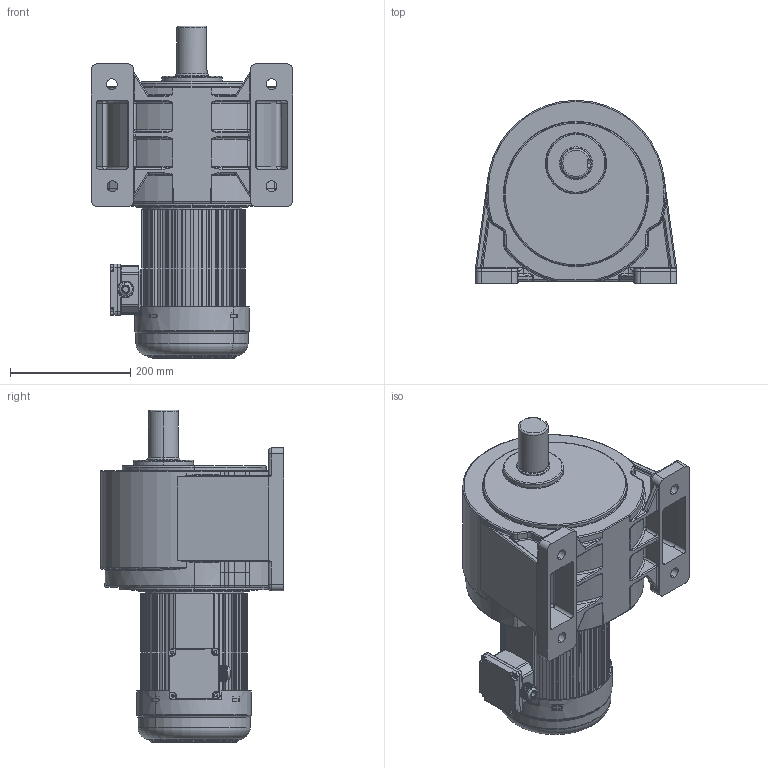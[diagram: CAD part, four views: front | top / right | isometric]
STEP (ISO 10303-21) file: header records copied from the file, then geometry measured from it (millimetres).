
FILE_DESCRIPTION (( 'STEP AP203' ), '1' );
FILE_NAME ('1500W饜6#拏宒.STEP', '2020-04-15T02:37:20', ( 'china' ), ( 'china' ), 'SwSTEP 2.0', 'SolidWorks 2019', '' );
FILE_SCHEMA (( 'CONFIG_CONTROL_DESIGN' ));
Length unit declared in the file: millimetre
Products named in the file (8): 1500W6#拏宒眊极; 1500W儂褲; 1500W饜6#拏宒; 1500W綴傷裔; 瑞欶; 蜊輛綴諉盄碟釱3; 諉芛; 蜊輛綴諉盄碟裔3
Assembly tree (7 placements, depth 2):
  1500W饜6#拏宒
    1500W儂褲
    1500W綴傷裔
    瑞欶
    蜊輛綴諉盄碟釱3
    諉芛
    蜊輛綴諉盄碟裔3
    1500W6#拏宒眊极
Bounding box: 335 x 305 x 552.95 mm (x, y, z)
Volume: 16365289.7 mm3; surface area: 1171120.3 mm2
Topology: 7 solids, 11 shells, 3017 faces, 7982 edges, 5023 vertices
Faces by surface type: plane 1255, cylinder 1021, bspline 306, torus 268, cone 121, sphere 46
Entity records: 117732 total; most frequent: CARTESIAN_POINT 43005, ORIENTED_EDGE 15848, DIRECTION 14983, EDGE_CURVE 7924, AXIS2_PLACEMENT_3D 5253, VERTEX_POINT 5008, VECTOR 4477, LINE 4477
